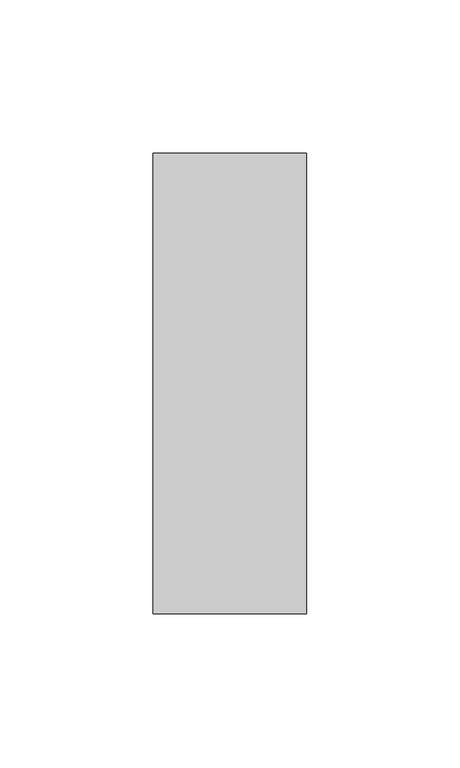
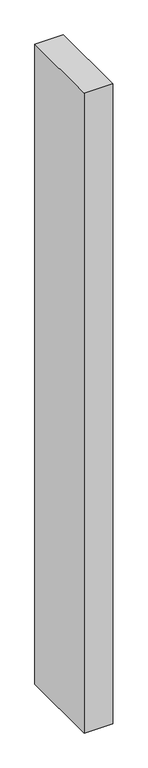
"""IFC4 building model written with IfcOpenShell, lengths in millimetres: member geometry, Прямоугольный импост : 50 x 150 мм."""

from ifc_helpers import new_model, si_unit, frame, origin, place, context, project, spatial, polyline, outline, extrude, source, transform, mapped, element, save


def member_b0218e3a(model_context):
    return source(origin(), model_context, "Body", "SweptSolid", [
        extrude(outline(polyline([(25.0, 75.0), (25.0, -75.0), (-25.0, -75.0), (-25.0, 75.0), (25.0, 75.0)])), frame((0.0, 0.0, -1186.0731122), z_axis=(0.0, 0.0, 1.0), x_axis=(1.0, 0.0, 0.0)), (0.0, 0.0, 1.0), 1186.0731122),
    ])


if __name__ == "__main__":
    model = new_model("IFC4")
    model_context = context("Model", 3, world=origin())
    ifc_project = project(units=[si_unit("LENGTHUNIT", "METRE", prefix="MILLI")], contexts=[model_context])
    site = spatial("IfcSite", under=ifc_project)
    building = spatial("IfcBuilding", under=site)
    placement = place(None, origin())
    member_shape = member_b0218e3a(model_context)
    element("IfcMember", 1, ObjectType="Прямоугольный импост : 50 x 150 мм", at=placement, inside=building, context=model_context, shape_type="MappedRepresentation", body=[
        mapped(member_shape, transform((0.0, 0.0, 0.0), x_axis=(1.0, 0.0, 0.0), y_axis=(0.0, 1.0, 0.0), z_axis=(0.0, 0.0, 1.0))),
    ])
    save(model, "model.ifc")
